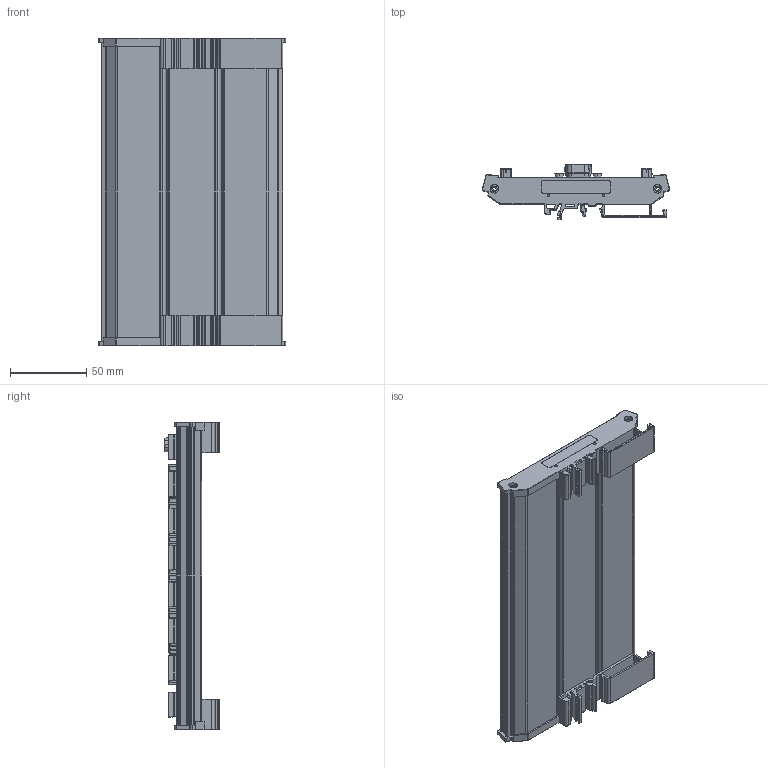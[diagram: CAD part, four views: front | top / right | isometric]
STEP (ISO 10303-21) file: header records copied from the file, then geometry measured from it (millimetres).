
FILE_DESCRIPTION (( 'STEP AP203' ), '1' );
FILE_NAME ('SMC3232D.STEP', '2023-03-15T02:59:40', ( 'Microsoft' ), ( 'Microsoft' ), 'SwSTEP 2.0', 'SolidWorks 2020', '' );
FILE_SCHEMA (( 'CONFIG_CONTROL_DESIGN' ));
Products named in the file (3): SMC3232D耀郪殤; SMC3232D; SMC3232D PCB°å.PART
Assembly tree (2 placements, depth 2):
  SMC3232D
    SMC3232D耀郪殤
    SMC3232D PCB°å.PART
Bounding box: 122.8 x 36.37 x 202 mm (x, y, z)
Volume: 91440.9 mm3; surface area: 202775.3 mm2
Topology: 1 solids, 136 shells, 3982 faces, 13544 edges, 9370 vertices
Faces by surface type: plane 2971, cylinder 892, bspline 95, cone 22, torus 2
Entity records: 150596 total; most frequent: CARTESIAN_POINT 38673, ORIENTED_EDGE 21992, DIRECTION 20837, EDGE_CURVE 13501, VECTOR 10783, LINE 10783, VERTEX_POINT 9370, AXIS2_PLACEMENT_3D 5027
